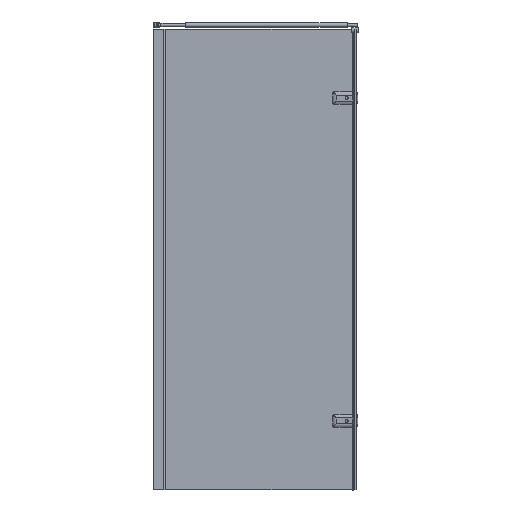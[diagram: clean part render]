
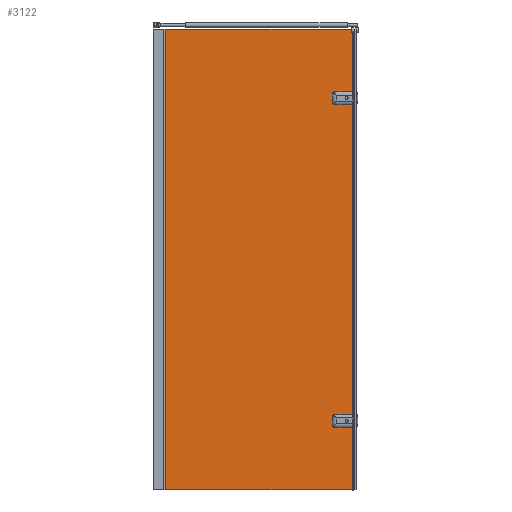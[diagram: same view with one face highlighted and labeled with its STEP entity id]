
A CAD part, front view. The second image highlights one B-rep face of the part: STEP entity #3122.
In plain terms, the highlighted planar face has unit normal (0, -1, 0).
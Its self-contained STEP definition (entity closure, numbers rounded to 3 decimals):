
#101=LINE($,#4488,#353);
#142=LINE($,#5203,#394);
#143=LINE($,#5246,#395);
#158=LINE($,#5489,#410);
#162=LINE($,#5498,#414);
#165=LINE($,#5516,#417);
#166=LINE($,#5531,#418);
#167=LINE($,#5546,#419);
#168=LINE($,#5548,#420);
#169=LINE($,#5550,#421);
#170=LINE($,#5552,#422);
#171=LINE($,#5553,#423);
#353=VECTOR($,#3613,80.729);
#394=VECTOR($,#3728,80.729);
#395=VECTOR($,#3735,46.859);
#410=VECTOR($,#3800,273.);
#414=VECTOR($,#3808,1346.);
#417=VECTOR($,#3819,80.729);
#418=VECTOR($,#3820,46.859);
#419=VECTOR($,#3821,80.729);
#420=VECTOR($,#3822,273.);
#421=VECTOR($,#3823,811.3);
#422=VECTOR($,#3824,2000.);
#423=VECTOR($,#3825,811.3);
#610=B_SPLINE_CURVE_WITH_KNOTS($,3,(#5231,#5232,#5233,#5234,#5235,#5236,
#5237,#5238,#5239,#5240,#5241,#5242),.UNSPECIFIED.,.F.,.F.,(4,2,2,2,2,4),
(0.,0.157,0.285,0.407,0.49,
0.573),.UNSPECIFIED.);
#611=B_SPLINE_CURVE_WITH_KNOTS($,3,(#5273,#5274,#5275,#5276,#5277,#5278,
#5279,#5280,#5281,#5282,#5283,#5284),.UNSPECIFIED.,.F.,.F.,(4,2,2,2,2,4),
(0.,0.157,0.285,0.407,0.49,
0.573),.UNSPECIFIED.);
#617=B_SPLINE_CURVE_WITH_KNOTS($,3,(#5518,#5519,#5520,#5521,#5522,#5523,
#5524,#5525,#5526,#5527,#5528,#5529),.UNSPECIFIED.,.F.,.F.,(4,2,2,2,2,4),
(0.,0.157,0.285,0.407,0.49,
0.573),.UNSPECIFIED.);
#618=B_SPLINE_CURVE_WITH_KNOTS($,3,(#5533,#5534,#5535,#5536,#5537,#5538,
#5539,#5540,#5541,#5542,#5543,#5544),.UNSPECIFIED.,.F.,.F.,(4,2,2,2,2,4),
(0.,0.157,0.285,0.407,0.49,
0.573),.UNSPECIFIED.);
#817=FACE_OUTER_BOUND($,#997,.T.);
#997=EDGE_LOOP($,(#2207,#2208,#2209,#2210,#2211,#2212,#2213,#2214,#2215,
#2216,#2217,#2218,#2219,#2220,#2221,#2222));
#1246=VERTEX_POINT($,#4485);
#1247=VERTEX_POINT($,#4487);
#1293=VERTEX_POINT($,#5200);
#1294=VERTEX_POINT($,#5202);
#1295=VERTEX_POINT($,#5230);
#1296=VERTEX_POINT($,#5245);
#1314=VERTEX_POINT($,#5488);
#1317=VERTEX_POINT($,#5496);
#1320=VERTEX_POINT($,#5515);
#1321=VERTEX_POINT($,#5517);
#1322=VERTEX_POINT($,#5530);
#1323=VERTEX_POINT($,#5532);
#1324=VERTEX_POINT($,#5545);
#1325=VERTEX_POINT($,#5547);
#1326=VERTEX_POINT($,#5549);
#1327=VERTEX_POINT($,#5551);
#1540=EDGE_CURVE($,#1246,#1247,#101,.T.);
#1611=EDGE_CURVE($,#1293,#1294,#142,.T.);
#1613=EDGE_CURVE($,#1294,#1295,#610,.T.);
#1615=EDGE_CURVE($,#1295,#1296,#143,.T.);
#1617=EDGE_CURVE($,#1296,#1246,#611,.T.);
#1647=EDGE_CURVE($,#1247,#1314,#158,.T.);
#1652=EDGE_CURVE($,#1317,#1293,#162,.T.);
#1657=EDGE_CURVE($,#1320,#1317,#165,.T.);
#1658=EDGE_CURVE($,#1321,#1320,#617,.T.);
#1659=EDGE_CURVE($,#1322,#1321,#166,.T.);
#1660=EDGE_CURVE($,#1323,#1322,#618,.T.);
#1661=EDGE_CURVE($,#1324,#1323,#167,.T.);
#1662=EDGE_CURVE($,#1325,#1324,#168,.T.);
#1663=EDGE_CURVE($,#1326,#1325,#169,.T.);
#1664=EDGE_CURVE($,#1327,#1326,#170,.T.);
#1665=EDGE_CURVE($,#1327,#1314,#171,.T.);
#2207=ORIENTED_EDGE($,*,*,#1611,.F.);
#2208=ORIENTED_EDGE($,*,*,#1652,.F.);
#2209=ORIENTED_EDGE($,*,*,#1657,.F.);
#2210=ORIENTED_EDGE($,*,*,#1658,.F.);
#2211=ORIENTED_EDGE($,*,*,#1659,.F.);
#2212=ORIENTED_EDGE($,*,*,#1660,.F.);
#2213=ORIENTED_EDGE($,*,*,#1661,.F.);
#2214=ORIENTED_EDGE($,*,*,#1662,.F.);
#2215=ORIENTED_EDGE($,*,*,#1663,.F.);
#2216=ORIENTED_EDGE($,*,*,#1664,.F.);
#2217=ORIENTED_EDGE($,*,*,#1665,.T.);
#2218=ORIENTED_EDGE($,*,*,#1647,.F.);
#2219=ORIENTED_EDGE($,*,*,#1540,.F.);
#2220=ORIENTED_EDGE($,*,*,#1617,.F.);
#2221=ORIENTED_EDGE($,*,*,#1615,.F.);
#2222=ORIENTED_EDGE($,*,*,#1613,.F.);
#2814=PLANE($,#3348);
#3122=ADVANCED_FACE($,(#817),#2814,.F.);
#3348=AXIS2_PLACEMENT_3D($,#5514,#3817,#3818);
#3613=DIRECTION($,(1.,0.,0.));
#3728=DIRECTION($,(-1.,0.,0.));
#3735=DIRECTION($,(0.,0.,-1.));
#3800=DIRECTION($,(0.,0.,-1.));
#3808=DIRECTION($,(0.,0.,-1.));
#3817=DIRECTION('center_axis',(0.,1.,0.));
#3818=DIRECTION('ref_axis',(1.,0.,0.));
#3819=DIRECTION($,(1.,0.,0.));
#3820=DIRECTION($,(0.,0.,-1.));
#3821=DIRECTION($,(-1.,0.,0.));
#3822=DIRECTION($,(0.,0.,-1.));
#3823=DIRECTION($,(1.,0.,0.));
#3824=DIRECTION($,(0.,0.,1.));
#3825=DIRECTION($,(1.,0.,0.));
#4485=CARTESIAN_POINT('',(1234.304,-169.644,-241.056));
#4487=CARTESIAN_POINT('',(1315.033,-169.644,-241.056));
#4488=CARTESIAN_POINT($,(1338.733,-169.644,-241.056));
#5200=CARTESIAN_POINT('',(1315.033,-169.644,-187.056));
#5202=CARTESIAN_POINT('',(1234.304,-169.644,-187.056));
#5203=CARTESIAN_POINT($,(1230.733,-169.644,-187.056));
#5230=CARTESIAN_POINT('',(1230.733,-169.644,-190.626));
#5231=CARTESIAN_POINT('Ctrl Pts',(1234.304,-169.644,-187.056));
#5232=CARTESIAN_POINT('Ctrl Pts',(1233.78,-169.644,-187.056));
#5233=CARTESIAN_POINT('Ctrl Pts',(1233.261,-169.644,-187.14));
#5234=CARTESIAN_POINT('Ctrl Pts',(1232.383,-169.644,-187.496));
#5235=CARTESIAN_POINT('Ctrl Pts',(1232.026,-169.644,-187.725));
#5236=CARTESIAN_POINT('Ctrl Pts',(1231.436,-169.644,-188.31));
#5237=CARTESIAN_POINT('Ctrl Pts',(1231.211,-169.644,-188.645));
#5238=CARTESIAN_POINT('Ctrl Pts',(1230.939,-169.644,-189.266));
#5239=CARTESIAN_POINT('Ctrl Pts',(1230.861,-169.644,-189.528));
#5240=CARTESIAN_POINT('Ctrl Pts',(1230.757,-169.644,-190.07));
#5241=CARTESIAN_POINT('Ctrl Pts',(1230.733,-169.644,-190.348));
#5242=CARTESIAN_POINT('Ctrl Pts',(1230.733,-169.644,-190.626));
#5245=CARTESIAN_POINT('',(1230.733,-169.644,-237.485));
#5246=CARTESIAN_POINT($,(1230.733,-169.644,-241.056));
#5273=CARTESIAN_POINT('Ctrl Pts',(1230.733,-169.644,-237.485));
#5274=CARTESIAN_POINT('Ctrl Pts',(1230.733,-169.644,-238.008));
#5275=CARTESIAN_POINT('Ctrl Pts',(1230.817,-169.644,-238.528));
#5276=CARTESIAN_POINT('Ctrl Pts',(1231.173,-169.644,-239.406));
#5277=CARTESIAN_POINT('Ctrl Pts',(1231.403,-169.644,-239.763));
#5278=CARTESIAN_POINT('Ctrl Pts',(1231.987,-169.644,-240.353));
#5279=CARTESIAN_POINT('Ctrl Pts',(1232.323,-169.644,-240.578));
#5280=CARTESIAN_POINT('Ctrl Pts',(1232.944,-169.644,-240.849));
#5281=CARTESIAN_POINT('Ctrl Pts',(1233.206,-169.644,-240.928));
#5282=CARTESIAN_POINT('Ctrl Pts',(1233.747,-169.644,-241.032));
#5283=CARTESIAN_POINT('Ctrl Pts',(1234.025,-169.644,-241.056));
#5284=CARTESIAN_POINT('Ctrl Pts',(1234.304,-169.644,-241.056));
#5488=CARTESIAN_POINT('',(1315.033,-169.644,-514.056));
#5489=CARTESIAN_POINT($,(1315.033,-169.644,485.944));
#5496=CARTESIAN_POINT('',(1315.033,-169.644,1158.944));
#5498=CARTESIAN_POINT($,(1315.033,-169.644,485.944));
#5514=CARTESIAN_POINT('Origin',(458.733,-169.644,1485.944));
#5515=CARTESIAN_POINT('',(1234.304,-169.644,1158.944));
#5516=CARTESIAN_POINT($,(1338.733,-169.644,1158.944));
#5517=CARTESIAN_POINT('',(1230.733,-169.644,1162.515));
#5518=CARTESIAN_POINT('Ctrl Pts',(1230.733,-169.644,1162.515));
#5519=CARTESIAN_POINT('Ctrl Pts',(1230.733,-169.644,1161.992));
#5520=CARTESIAN_POINT('Ctrl Pts',(1230.817,-169.644,1161.472));
#5521=CARTESIAN_POINT('Ctrl Pts',(1231.173,-169.644,1160.594));
#5522=CARTESIAN_POINT('Ctrl Pts',(1231.403,-169.644,1160.237));
#5523=CARTESIAN_POINT('Ctrl Pts',(1231.987,-169.644,1159.647));
#5524=CARTESIAN_POINT('Ctrl Pts',(1232.323,-169.644,1159.422));
#5525=CARTESIAN_POINT('Ctrl Pts',(1232.944,-169.644,1159.151));
#5526=CARTESIAN_POINT('Ctrl Pts',(1233.206,-169.644,1159.072));
#5527=CARTESIAN_POINT('Ctrl Pts',(1233.747,-169.644,1158.968));
#5528=CARTESIAN_POINT('Ctrl Pts',(1234.025,-169.644,1158.944));
#5529=CARTESIAN_POINT('Ctrl Pts',(1234.304,-169.644,1158.944));
#5530=CARTESIAN_POINT('',(1230.733,-169.644,1209.374));
#5531=CARTESIAN_POINT($,(1230.733,-169.644,1158.944));
#5532=CARTESIAN_POINT('',(1234.304,-169.644,1212.944));
#5533=CARTESIAN_POINT('Ctrl Pts',(1234.304,-169.644,1212.944));
#5534=CARTESIAN_POINT('Ctrl Pts',(1233.78,-169.644,1212.944));
#5535=CARTESIAN_POINT('Ctrl Pts',(1233.261,-169.644,1212.86));
#5536=CARTESIAN_POINT('Ctrl Pts',(1232.383,-169.644,1212.504));
#5537=CARTESIAN_POINT('Ctrl Pts',(1232.026,-169.644,1212.275));
#5538=CARTESIAN_POINT('Ctrl Pts',(1231.436,-169.644,1211.69));
#5539=CARTESIAN_POINT('Ctrl Pts',(1231.211,-169.644,1211.355));
#5540=CARTESIAN_POINT('Ctrl Pts',(1230.939,-169.644,1210.734));
#5541=CARTESIAN_POINT('Ctrl Pts',(1230.861,-169.644,1210.472));
#5542=CARTESIAN_POINT('Ctrl Pts',(1230.757,-169.644,1209.93));
#5543=CARTESIAN_POINT('Ctrl Pts',(1230.733,-169.644,1209.652));
#5544=CARTESIAN_POINT('Ctrl Pts',(1230.733,-169.644,1209.374));
#5545=CARTESIAN_POINT('',(1315.033,-169.644,1212.944));
#5546=CARTESIAN_POINT($,(1230.733,-169.644,1212.944));
#5547=CARTESIAN_POINT('',(1315.033,-169.644,1485.944));
#5548=CARTESIAN_POINT($,(1315.033,-169.644,485.944));
#5549=CARTESIAN_POINT('',(503.733,-169.644,1485.944));
#5550=CARTESIAN_POINT($,(458.733,-169.644,1485.944));
#5551=CARTESIAN_POINT('',(503.733,-169.644,-514.056));
#5552=CARTESIAN_POINT($,(503.733,-169.644,485.944));
#5553=CARTESIAN_POINT($,(458.733,-169.644,-514.056));
